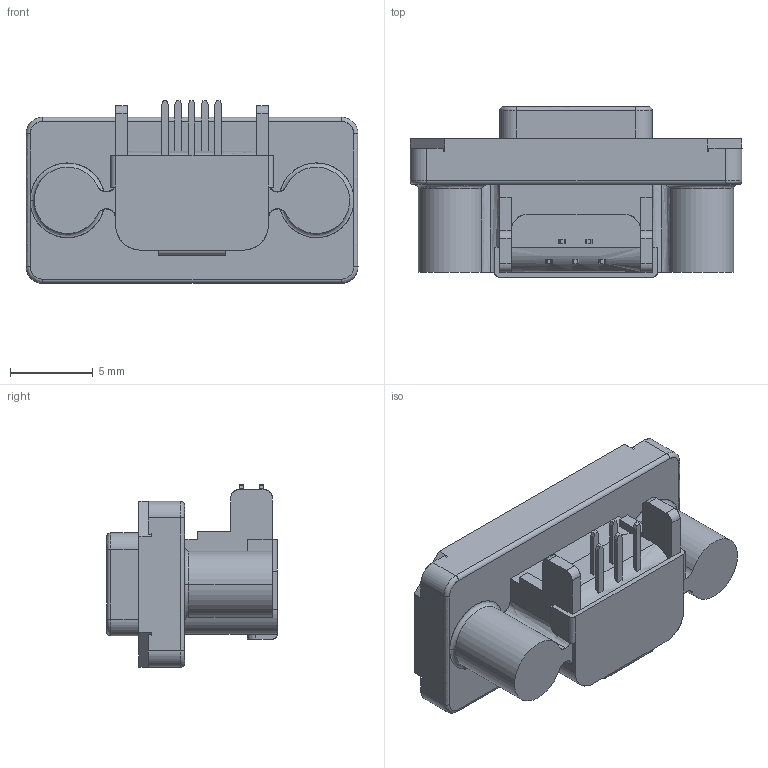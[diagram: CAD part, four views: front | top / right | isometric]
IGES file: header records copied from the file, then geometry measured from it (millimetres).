
Start section: SolidWorks IGES file using analytic representation for surfaces
Global section: file name: C:\Users\dtstudent\Desktop\M-MUSB-B151-34-3PCS-REVM1\M-MUSB-B151-34-REVM2.IGS; native system: SolidWorks 2009; preprocessor: SolidWorks 2009; author: dtstudent; date: 110117.123627; units: millimetre
Bounding box: 20 x 10.28 x 11 mm (x, y, z)
Surface area: 1655.8 mm2 (no closed solid volume)
Topology: 0 solids, 0 shells, 671 faces, 5298 edges, 5292 vertices
Faces by surface type: bspline 461, revolution 210
